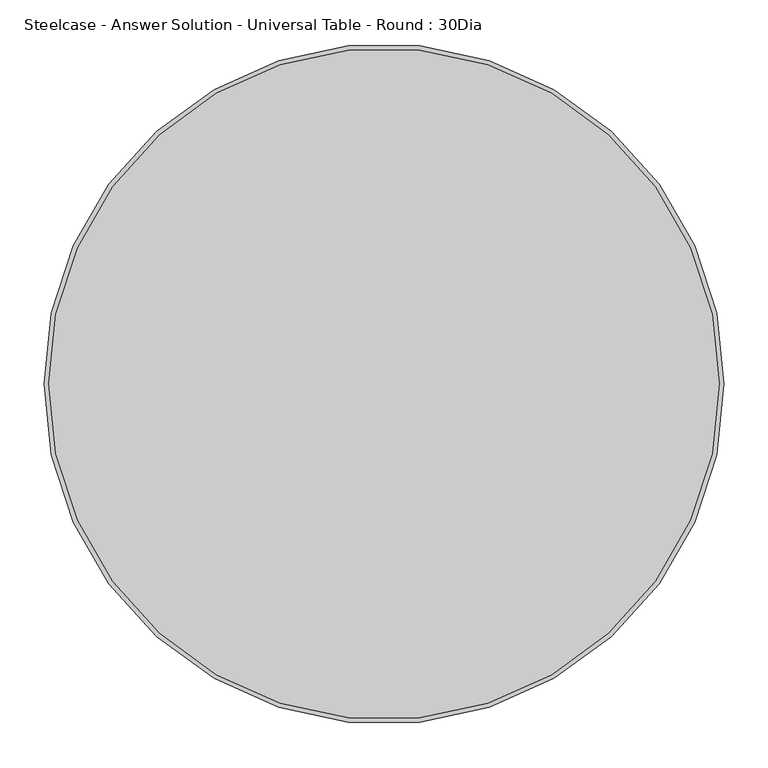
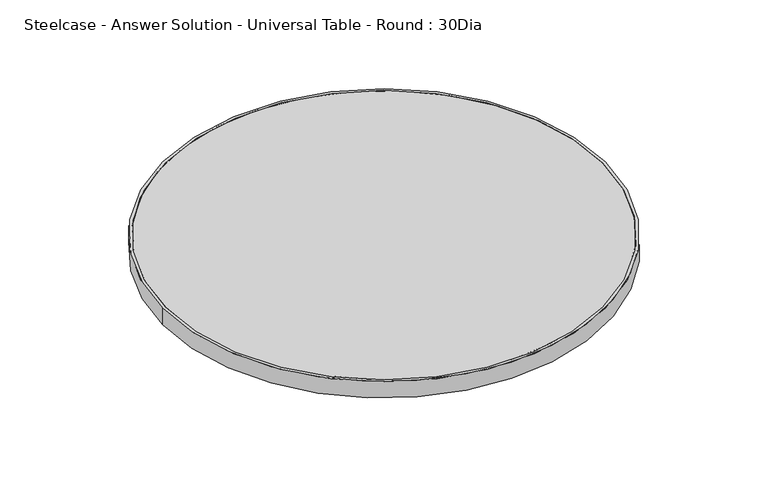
"""IFC4 building model written with IfcOpenShell, lengths in millimetres: furniture geometry, Steelcase - Answer Solution - Universal Table - Round : 30Dia."""

from ifc_helpers import new_model, si_unit, point, frame, origin, origin_2d, place, context, project, spatial, circle_curve, trimmed, segment, composite_curve, outline, extrude, source, transform, mapped, element, save


def steelcase_answer_solution_universal_table_round_30dia_e3b38b3a(model_context):
    return source(origin(), model_context, "Body", "SweptSolid", [
        extrude(outline(composite_curve([segment(trimmed(circle_curve(origin_2d(), 386.08), [point((-386.08, 0.0))], [point((386.08, 0.0))], False, "CARTESIAN"), True, "CONTINUOUS"), segment(trimmed(circle_curve(origin_2d(), 386.08), [point((386.08, 0.0))], [point((-386.08, 0.0))], False, "CARTESIAN"), True, "CONTINUOUS")], self_intersect=False), holes=[composite_curve([segment(trimmed(circle_curve(origin_2d(), 381.0), [point((381.0, 0.0))], [point((-381.0, 0.0))], True, "CARTESIAN"), True, "CONTINUOUS"), segment(trimmed(circle_curve(origin_2d(), 381.0), [point((-381.0, 0.0))], [point((381.0, 0.0))], True, "CARTESIAN"), True, "CONTINUOUS")], self_intersect=False)]), frame((0.0, 0.0, 668.274), z_axis=(0.0, 0.0, 1.0), x_axis=(1.0, 0.0, 0.0)), (0.0, 0.0, 1.0), 30.0990349),
        extrude(outline(composite_curve([segment(trimmed(circle_curve(origin_2d(), 381.0), [point((-381.0, 0.0))], [point((381.0, 0.0))], False, "CARTESIAN"), True, "CONTINUOUS"), segment(trimmed(circle_curve(origin_2d(), 381.0), [point((381.0, 0.0))], [point((-381.0, 0.0))], False, "CARTESIAN"), True, "CONTINUOUS")], self_intersect=False)), frame((0.0, 0.0, 668.274), z_axis=(0.0, 0.0, 1.0), x_axis=(1.0, 0.0, 0.0)), (0.0, 0.0, 1.0), 30.0990349),
    ])


if __name__ == "__main__":
    model = new_model("IFC4")
    model_context = context("Model", 3, world=origin())
    ifc_project = project(units=[si_unit("LENGTHUNIT", "METRE", prefix="MILLI")], contexts=[model_context])
    site = spatial("IfcSite", under=ifc_project)
    building = spatial("IfcBuilding", under=site)
    placement = place(None, origin())
    steelcase_answer_solution_universal_table_round_30dia_shape = steelcase_answer_solution_universal_table_round_30dia_e3b38b3a(model_context)
    element("IfcFurniture", 1, ObjectType="Steelcase - Answer Solution - Universal Table - Round : 30Dia", at=placement, inside=building, context=model_context, shape_type="MappedRepresentation", body=[
        mapped(steelcase_answer_solution_universal_table_round_30dia_shape, transform((0.0, 0.0, 0.0), x_axis=(1.0, 0.0, 0.0), y_axis=(0.0, 1.0, 0.0), z_axis=(0.0, 0.0, 1.0))),
    ])
    save(model, "model.ifc")
